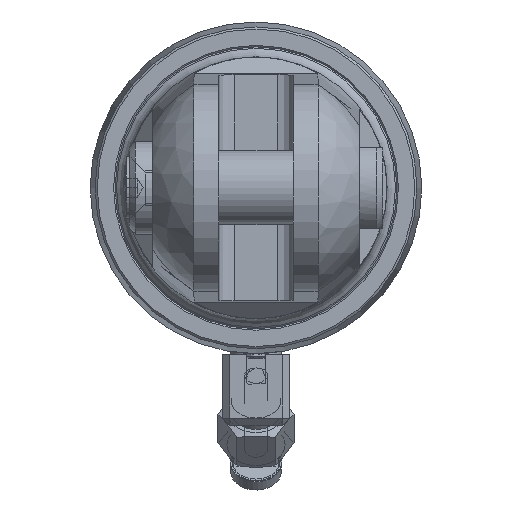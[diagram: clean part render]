
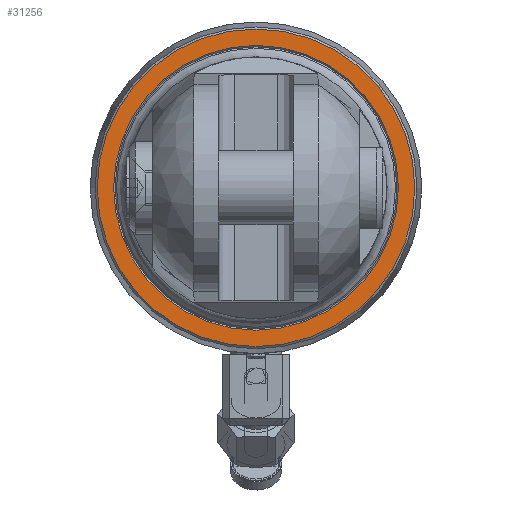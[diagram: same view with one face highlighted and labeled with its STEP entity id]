
A CAD part, left-side view. The second image highlights one B-rep face of the part: STEP entity #31256.
In plain terms, the highlighted planar face has unit normal (-1, 0, 0).
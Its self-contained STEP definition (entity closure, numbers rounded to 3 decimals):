
#291=FACE_BOUND('',#5399,.T.);
#3634=FACE_OUTER_BOUND('',#5398,.T.);
#5398=EDGE_LOOP('',(#26716));
#5399=EDGE_LOOP('',(#26717));
#11286=CIRCLE('',#32538,36.75);
#11301=CIRCLE('',#32558,40.988);
#14091=VERTEX_POINT('',#57576);
#14107=VERTEX_POINT('',#57776);
#18321=EDGE_CURVE('',#14091,#14091,#11286,.T.);
#18343=EDGE_CURVE('',#14107,#14107,#11301,.T.);
#26716=ORIENTED_EDGE('',*,*,#18343,.F.);
#26717=ORIENTED_EDGE('',*,*,#18321,.F.);
#28068=PLANE('',#32557);
#31256=ADVANCED_FACE('',(#3634,#291),#28068,.T.);
#32538=AXIS2_PLACEMENT_3D('',#57577,#37711,#37712);
#32557=AXIS2_PLACEMENT_3D('',#57775,#37754,#37755);
#32558=AXIS2_PLACEMENT_3D('',#57777,#37756,#37757);
#37711=DIRECTION('center_axis',(-1.,0.,0.));
#37712=DIRECTION('ref_axis',(0.,1.,0.));
#37754=DIRECTION('center_axis',(-1.,0.,0.));
#37755=DIRECTION('ref_axis',(0.,0.,1.));
#37756=DIRECTION('center_axis',(1.,0.,0.));
#37757=DIRECTION('ref_axis',(0.,-1.,0.));
#57576=CARTESIAN_POINT('',(0.,-36.75,0.));
#57577=CARTESIAN_POINT('Origin',(0.,0.,0.));
#57775=CARTESIAN_POINT('Origin',(0.,0.,0.));
#57776=CARTESIAN_POINT('',(0.,40.988,0.));
#57777=CARTESIAN_POINT('Origin',(0.,0.,0.));
